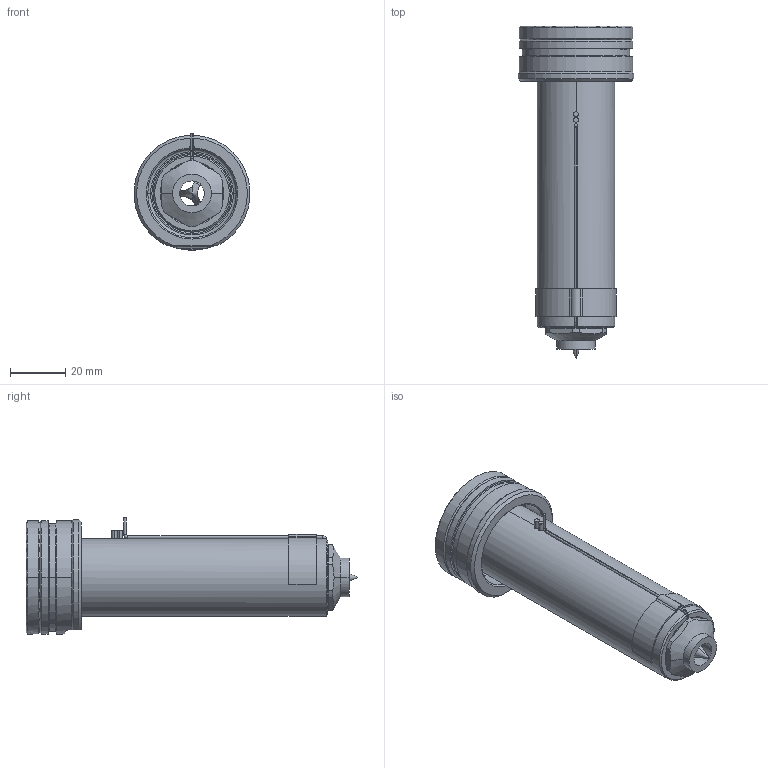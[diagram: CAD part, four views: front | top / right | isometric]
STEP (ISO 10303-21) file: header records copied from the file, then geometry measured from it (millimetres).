
FILE_DESCRIPTION((''),'2;1');
FILE_NAME('EO10_PG-BL_WR_100_SW','2024-02-19T11:10:22',('sundharh'),(''),'CREO PARAMETRIC BY PTC INC, 2023154','CREO PARAMETRIC BY PTC INC, 2023154','');
FILE_SCHEMA(('CONFIG_CONTROL_DESIGN'));
Length unit declared in the file: millimetre
Products named in the file (1): EO10_PG-BL_WR_100_SW
Bounding box: 41.85 x 120 x 42.02 mm (x, y, z)
Volume: 72611.8 mm3; surface area: 21228.5 mm2
Topology: 1 solids, 1 shells, 196 faces, 532 edges, 332 vertices
Faces by surface type: cylinder 78, plane 59, cone 37, torus 17, bspline 3, sphere 2
Entity records: 7250 total; most frequent: CARTESIAN_POINT 2191, DIRECTION 1102, ORIENTED_EDGE 1060, EDGE_CURVE 530, AXIS2_PLACEMENT_3D 459, VERTEX_POINT 332, CIRCLE 266, EDGE_LOOP 212
